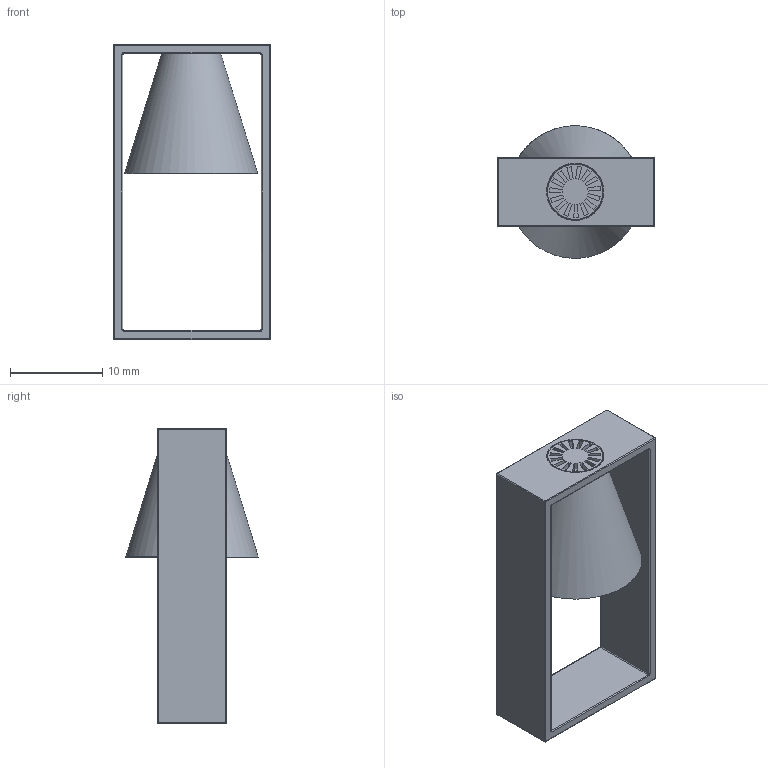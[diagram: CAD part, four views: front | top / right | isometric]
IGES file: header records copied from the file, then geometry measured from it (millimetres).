
Global section: file name: D:\3ddFactory\3D_Kartell\Ex-novo_3dd\Light air\9110\Light-air_3d_Eugeni Quitllet_Kartell.igs; native system: Rhinoceros ( Mar 10 2014 ); preprocessor: Trout Lake IGES 012 Mar 10 2014; date: 180215.180619; units: millimetre
Bounding box: 17 x 14.35 x 32 mm (x, y, z)
Surface area: 3521.8 mm2 (no closed solid volume)
Topology: 0 solids, 0 shells, 289 faces, 1339 edges, 1335 vertices
Faces by surface type: bspline 289
